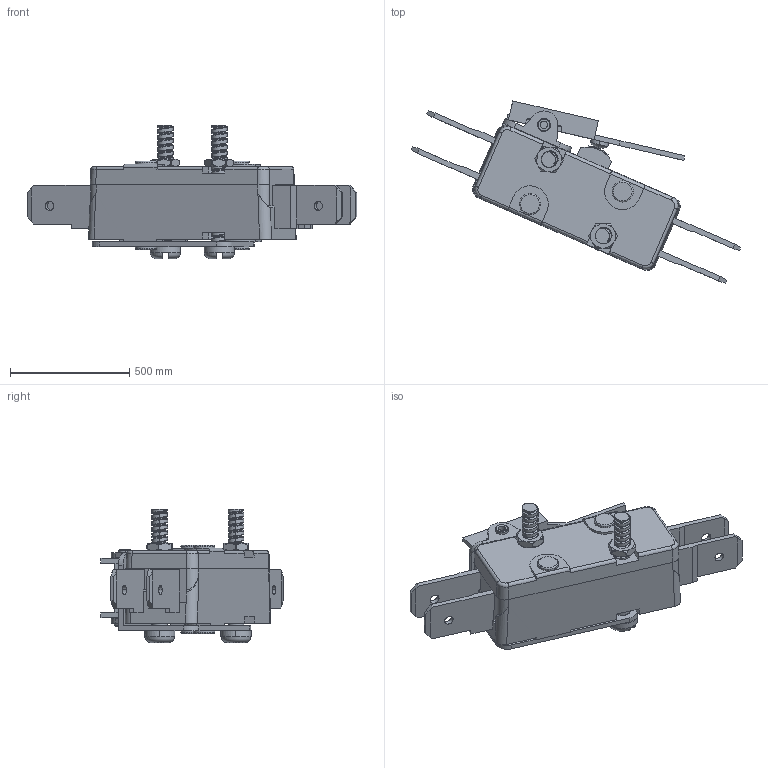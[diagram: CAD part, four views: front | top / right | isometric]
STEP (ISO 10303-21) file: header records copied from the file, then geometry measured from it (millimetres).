
FILE_DESCRIPTION((''),'2;1');
FILE_NAME('TW-1012A','2016-08-13T',('ABS'),(''),'PRO/ENGINEER BY PARAMETRIC TECHNOLOGY CORPORATION, 2012360','PRO/ENGINEER BY PARAMETRIC TECHNOLOGY CORPORATION, 2012360','');
FILE_SCHEMA(('CONFIG_CONTROL_DESIGN'));
Length unit declared in the file: inch
Products named in the file (1): TW-1012A
Bounding box: 1382.36 x 763.48 x 558.8 mm (x, y, z)
Volume: 92491298.3 mm3; surface area: 3935773.4 mm2
Topology: 2 solids, 16 shells, 795 faces, 2214 edges, 1405 vertices
Faces by surface type: plane 431, cylinder 268, bspline 46, sphere 26, torus 16, cone 8
Entity records: 35168 total; most frequent: CARTESIAN_POINT 15435, ORIENTED_EDGE 4376, DIRECTION 3697, EDGE_CURVE 2188, VERTEX_POINT 1405, VECTOR 1385, LINE 1385, AXIS2_PLACEMENT_3D 1156
